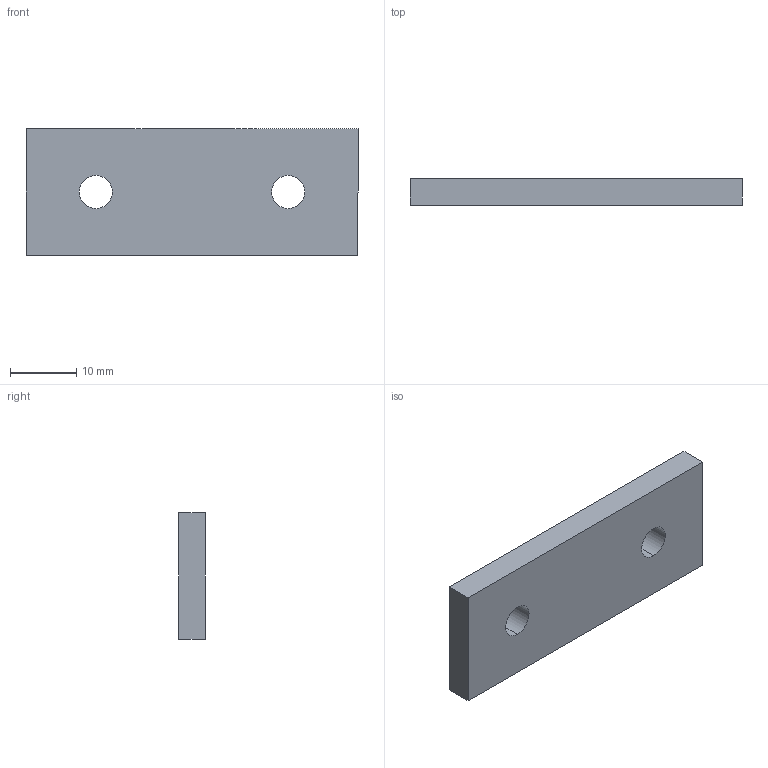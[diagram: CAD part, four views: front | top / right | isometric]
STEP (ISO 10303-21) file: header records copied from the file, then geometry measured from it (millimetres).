
FILE_DESCRIPTION (( 'STEP AP214' ), '1' );
FILE_NAME ('FBCS-19x50.STEP', '2011-09-19T06:46:36', ( '.' ), ( '' ), 'SwSTEP 2.0', 'SolidWorks 2010', '' );
FILE_SCHEMA (( 'AUTOMOTIVE_DESIGN' ));
Length unit declared in the file: millimetre
Products named in the file (1): FBCS-19x50
Bounding box: 50 x 4 x 19 mm (x, y, z)
Volume: 3642.9 mm3; surface area: 2499.1 mm2
Topology: 1 solids, 1 shells, 10 faces, 24 edges, 16 vertices
Faces by surface type: plane 6, cylinder 4
Entity records: 382 total; most frequent: DIRECTION 54, CARTESIAN_POINT 51, ORIENTED_EDGE 48, EDGE_CURVE 24, AXIS2_PLACEMENT_3D 19, VERTEX_POINT 16, VECTOR 16, LINE 16
